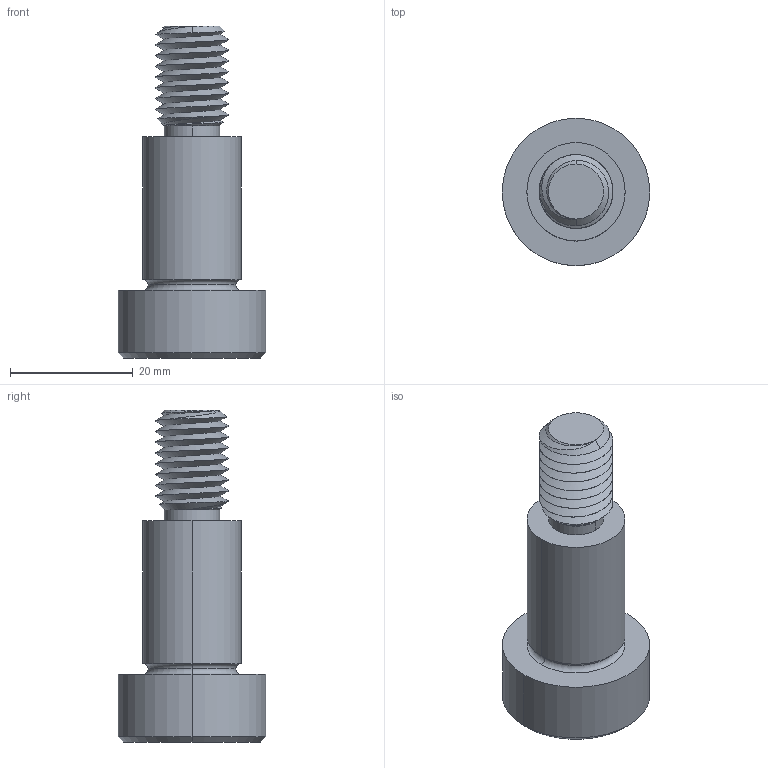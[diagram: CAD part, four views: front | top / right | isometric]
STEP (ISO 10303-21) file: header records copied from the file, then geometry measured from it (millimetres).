
FILE_DESCRIPTION (( 'STEP AP203' ), '1' );
FILE_NAME ('P0130.160-025-B2.step', '2021-11-09T22:12:44', ( '' ), ( '' ), 'SwSTEP 2.0', 'SolidWorks 2019', '' );
FILE_SCHEMA (( 'CONFIG_CONTROL_DESIGN' ));
Length unit declared in the file: millimetre
Products named in the file (1): P0130.160-025-B2
Bounding box: 24 x 24 x 54 mm (x, y, z)
Volume: 10930.7 mm3; surface area: 4299.8 mm2
Topology: 1 solids, 1 shells, 59 faces, 139 edges, 83 vertices
Faces by surface type: cylinder 22, plane 16, cone 15, torus 4, bspline 2
Entity records: 5164 total; most frequent: CARTESIAN_POINT 3839, ORIENTED_EDGE 274, DIRECTION 244, EDGE_CURVE 137, AXIS2_PLACEMENT_3D 98, VERTEX_POINT 83, EDGE_LOOP 62, ADVANCED_FACE 59
